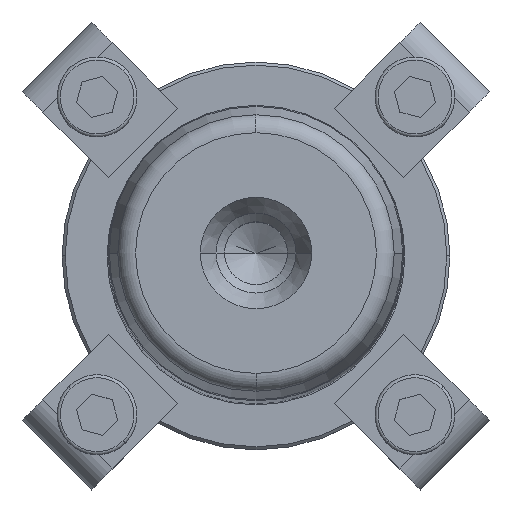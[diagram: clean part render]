
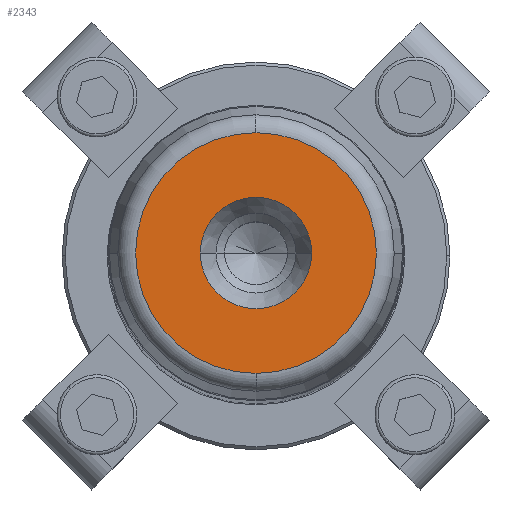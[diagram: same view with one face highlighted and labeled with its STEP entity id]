
A CAD part, top view. The second image highlights one B-rep face of the part: STEP entity #2343.
In plain terms, the highlighted planar face has unit normal (0, 0, 1).
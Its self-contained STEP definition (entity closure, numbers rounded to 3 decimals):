
#431=CARTESIAN_POINT('',(9.05,0.,280.0));
#432=VERTEX_POINT('',#431);
#439=CARTESIAN_POINT('',(-9.05,0.,280.0));
#440=VERTEX_POINT('',#439);
#441=CARTESIAN_POINT('',(0.0,0.,280.0));
#442=DIRECTION('',(0.0,0.0,1.0));
#443=DIRECTION('',(1.0,0.0,0.0));
#444=AXIS2_PLACEMENT_3D('',#441,#442,#443);
#445=CIRCLE('',#444,9.05);
#446=EDGE_CURVE('',#432,#440,#445,.T.);
#463=CARTESIAN_POINT('',(0.0,-19.554,280.0));
#464=VERTEX_POINT('',#463);
#474=CARTESIAN_POINT('',(0.,19.554,280.0));
#475=VERTEX_POINT('',#474);
#476=CARTESIAN_POINT('',(0.0,0.,280.0));
#477=DIRECTION('',(0.0,0.0,1.0));
#478=DIRECTION('',(1.0,0.0,0.0));
#479=AXIS2_PLACEMENT_3D('',#476,#477,#478);
#480=CIRCLE('',#479,19.554);
#481=EDGE_CURVE('',#475,#464,#480,.T.);
#2304=CARTESIAN_POINT('',(19.554,0.,280.0));
#2305=VERTEX_POINT('',#2304);
#2306=CARTESIAN_POINT('',(0.0,0.,280.0));
#2307=DIRECTION('',(0.0,0.0,1.0));
#2308=DIRECTION('',(1.0,0.0,0.0));
#2309=AXIS2_PLACEMENT_3D('',#2306,#2307,#2308);
#2310=CIRCLE('',#2309,19.554);
#2311=EDGE_CURVE('',#2305,#475,#2310,.T.);
#2313=CARTESIAN_POINT('',(0.0,0.,280.0));
#2314=DIRECTION('',(0.0,0.0,1.0));
#2315=DIRECTION('',(1.0,0.0,0.0));
#2316=AXIS2_PLACEMENT_3D('',#2313,#2314,#2315);
#2317=CIRCLE('',#2316,19.554);
#2318=EDGE_CURVE('',#464,#2305,#2317,.T.);
#2323=CARTESIAN_POINT('',(14.302,0.,280.0));
#2324=DIRECTION('',(0.0,0.0,1.0));
#2325=DIRECTION('',(0.0,-1.0,0.0));
#2326=AXIS2_PLACEMENT_3D('',#2323,#2324,#2325);
#2327=PLANE('',#2326);
#2328=ORIENTED_EDGE('',*,*,#2311,.T.);
#2329=ORIENTED_EDGE('',*,*,#481,.T.);
#2330=ORIENTED_EDGE('',*,*,#2318,.T.);
#2331=EDGE_LOOP('',(#2328,#2329,#2330));
#2332=FACE_OUTER_BOUND('',#2331,.T.);
#2333=ORIENTED_EDGE('',*,*,#446,.F.);
#2334=CARTESIAN_POINT('',(0.0,0.,280.0));
#2335=DIRECTION('',(0.0,0.0,1.0));
#2336=DIRECTION('',(1.0,0.0,0.0));
#2337=AXIS2_PLACEMENT_3D('',#2334,#2335,#2336);
#2338=CIRCLE('',#2337,9.05);
#2339=EDGE_CURVE('',#440,#432,#2338,.T.);
#2340=ORIENTED_EDGE('',*,*,#2339,.F.);
#2341=EDGE_LOOP('',(#2333,#2340));
#2342=FACE_BOUND('',#2341,.T.);
#2343=ADVANCED_FACE('',(#2332,#2342),#2327,.T.);
